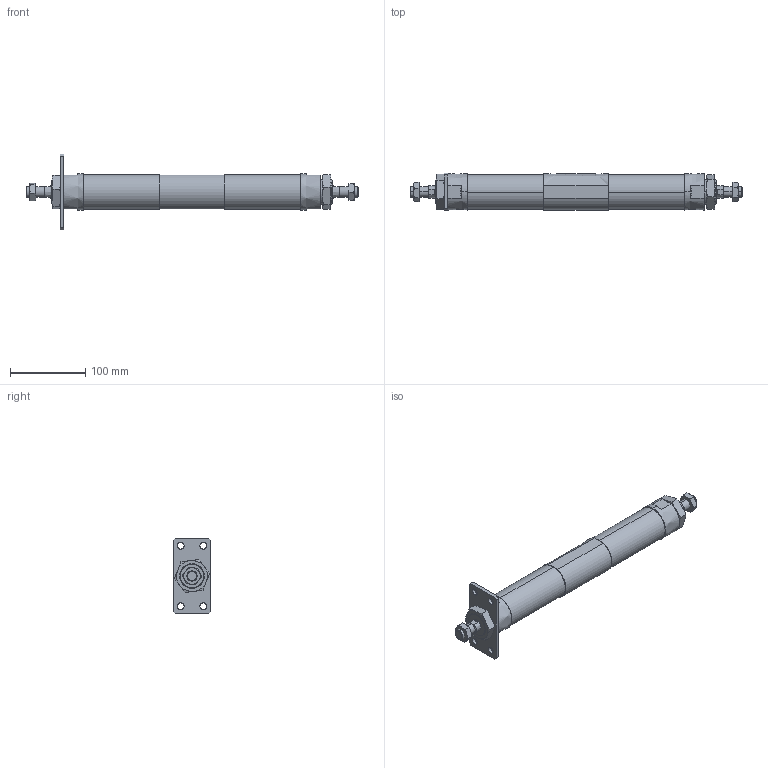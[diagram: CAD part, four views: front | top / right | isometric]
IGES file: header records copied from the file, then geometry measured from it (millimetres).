
Start section: SolidWorks IGES file using analytic representation for surfaces
Global section: file name: C:\Users\Toshiba\Desktop\JGD7-40-50-50-A.IGS; native system: SolidWorks 2014; preprocessor: SolidWorks 2014; author: Toshiba; date: 160419.152508; units: millimetre
Bounding box: 440 x 50 x 100 mm (x, y, z)
Surface area: 96920.2 mm2 (no closed solid volume)
Topology: 0 solids, 0 shells, 192 faces, 3672 edges, 3664 vertices
Faces by surface type: bspline 118, revolution 74
